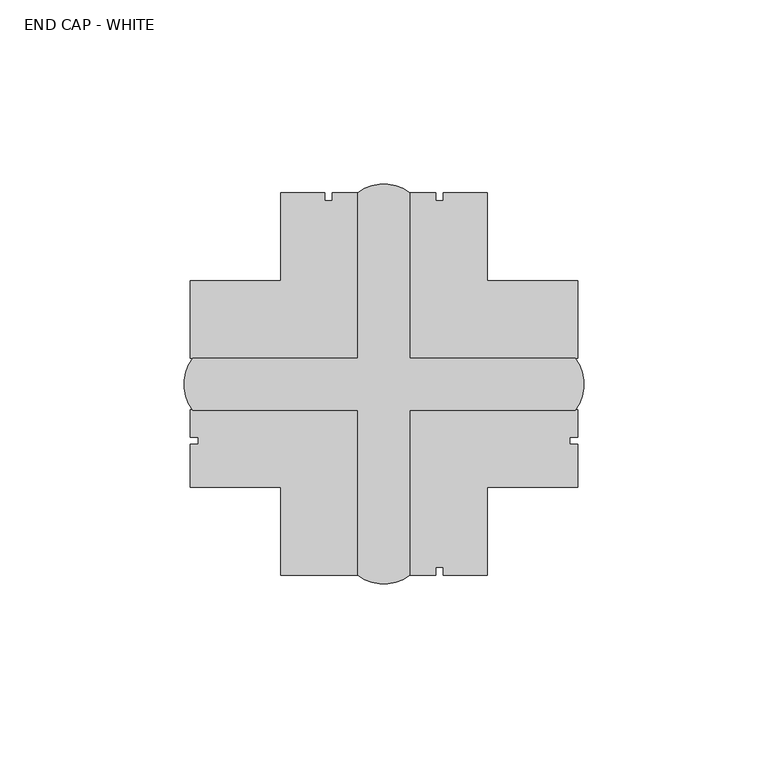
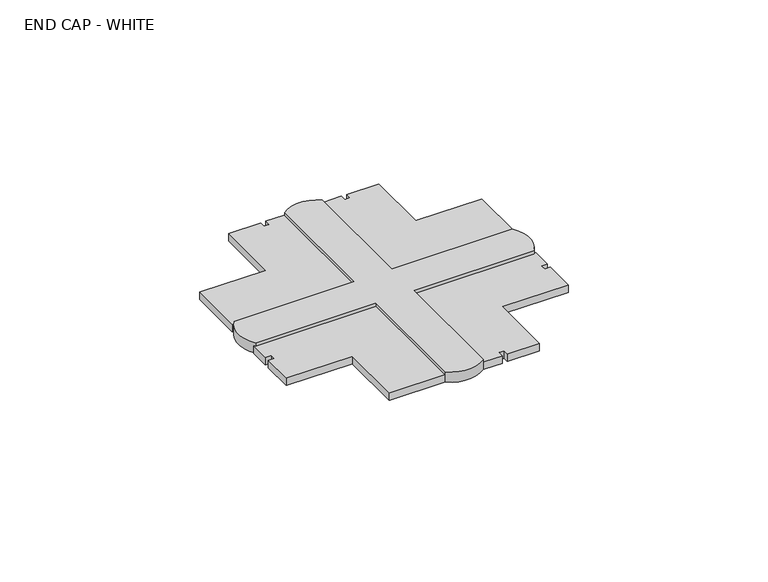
"""IFC4 building model written with IfcOpenShell, lengths in millimetres: proxy geometry, INDELAGUE-COVER_PLATE_X : END CAP - WHITE."""

from ifc_helpers import new_model, si_unit, point, frame_2d, origin, origin_with_axes, place, context, project, spatial, polyline, circle_curve, trimmed, segment, composite_curve, outline, extrude, source, transform, mapped, element, save


def end_cap_white_17c0ab39(model_context):
    return source(origin(), model_context, "Body", "SweptSolid", [
        extrude(outline(composite_curve([segment(polyline([(6.9627943, 52.0), (6.9627943, 6.9627943), (52.0, 6.9627943)]), True, "CONTINUOUS"), segment(trimmed(circle_curve(frame_2d((42.7665213, -0.0667789)), 11.6048278), [point((52.0, 6.9627943))], [point((52.0, -7.0963521))], False, "CARTESIAN"), True, "CONTINUOUS"), segment(polyline([(52.0, -7.0963521), (6.9627943, -7.0963521), (6.9627943, -52.0)]), True, "CONTINUOUS"), segment(trimmed(circle_curve(frame_2d((-0.0667789, -42.7665213)), 11.6048278), [point((6.9627943, -52.0))], [point((-7.0963521, -52.0))], False, "CARTESIAN"), True, "CONTINUOUS"), segment(polyline([(-7.0963521, -52.0), (-7.0963521, -7.0963521), (-52.0, -7.0963521)]), True, "CONTINUOUS"), segment(trimmed(circle_curve(frame_2d((-42.7665213, -0.0667789)), 11.6048278), [point((-52.0, -7.0963521))], [point((-52.0, 6.9627943))], False, "CARTESIAN"), True, "CONTINUOUS"), segment(polyline([(-52.0, 6.9627943), (-7.0963521, 6.9627943), (-7.0963521, 52.0)]), True, "CONTINUOUS"), segment(trimmed(circle_curve(frame_2d((-0.0667789, 42.7665213)), 11.6048278), [point((-7.0963521, 52.0))], [point((6.9627943, 52.0))], False, "CARTESIAN"), True, "CONTINUOUS")], self_intersect=False)), origin_with_axes(), (0.0, 0.0, 1.0), 4.0),
        extrude(outline(polyline([(-28.0, 28.0), (-28.0, 52.0), (-16.0528659, 52.0), (-16.0528659, 49.8454065), (-14.0744114, 49.8454065), (-14.0744114, 52.0), (-7.0963521, 52.0), (-7.0963521, 7.0), (-52.6400127, 7.0), (-52.6400127, 28.0), (-28.0, 28.0)])), origin_with_axes(), (0.0, 0.0, 1.0), 3.0),
        extrude(outline(polyline([(-28.0, -52.0), (-28.0, -28.0), (-52.6400127, -28.0), (-52.6400127, -16.3865982), (-50.4854192, -16.3865982), (-50.4854192, -14.4081436), (-52.6400127, -14.4081436), (-52.6400127, -7.0), (-7.0963521, -7.0), (-7.0963521, -52.0), (-28.0, -52.0)])), origin_with_axes(), (0.0, 0.0, 1.0), 3.0),
        extrude(outline(polyline([(16.0528659, -49.8454065), (14.0744114, -49.8454065), (14.0744114, -52.0), (7.0963521, -52.0), (7.0963521, -7.0), (52.6400127, -7.0), (52.6400127, -14.4081436), (50.4854192, -14.4081436), (50.4854192, -16.3865982), (52.6400127, -16.3865982), (52.6400127, -28.0), (28.0, -28.0), (28.0, -52.0), (16.0528659, -52.0), (16.0528659, -49.8454065)])), origin_with_axes(), (0.0, 0.0, 1.0), 3.0),
        extrude(outline(polyline([(16.0528659, 49.8454065), (16.0528659, 52.0), (28.0, 52.0), (28.0, 28.0), (52.6400127, 28.0), (52.6400127, 7.0), (7.0963521, 7.0), (7.0963521, 52.0), (14.0744114, 52.0), (14.0744114, 49.8454065), (16.0528659, 49.8454065)])), origin_with_axes(), (0.0, 0.0, 1.0), 3.0),
    ])


if __name__ == "__main__":
    model = new_model("IFC4")
    model_context = context("Model", 3, world=origin())
    ifc_project = project(units=[si_unit("LENGTHUNIT", "METRE", prefix="MILLI")], contexts=[model_context])
    site = spatial("IfcSite", under=ifc_project)
    building = spatial("IfcBuilding", under=site)
    placement = place(None, origin())
    end_cap_white_shape = end_cap_white_17c0ab39(model_context)
    element("IfcBuildingElementProxy", 1, Name="INDELAGUE-COVER_PLATE_X : END CAP - WHITE", ObjectType="INDELAGUE-COVER_PLATE_X : END CAP - WHITE", at=placement, inside=building, context=model_context, shape_type="MappedRepresentation", body=[
        mapped(end_cap_white_shape, transform((0.0, 0.0, 0.0), x_axis=(1.0, 0.0, 0.0), y_axis=(0.0, 1.0, 0.0), z_axis=(0.0, 0.0, 1.0))),
    ])
    save(model, "model.ifc")
